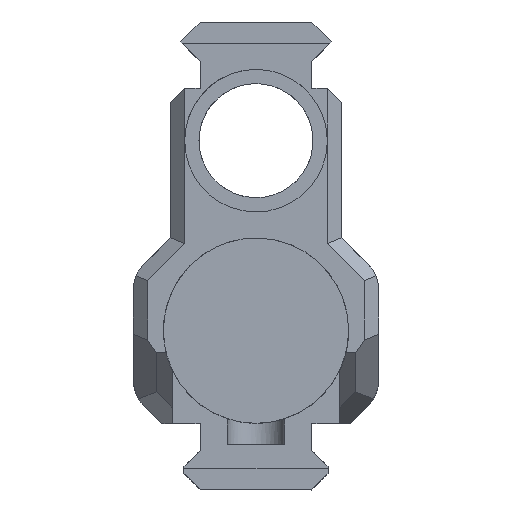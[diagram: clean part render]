
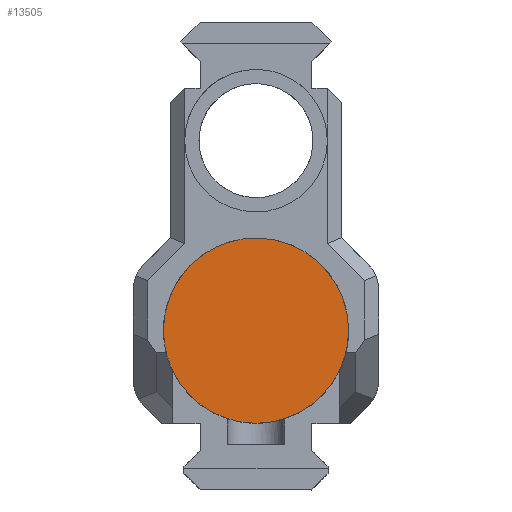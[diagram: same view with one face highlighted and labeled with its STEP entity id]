
A CAD part, left-side view. The second image highlights one B-rep face of the part: STEP entity #13505.
In plain terms, the highlighted planar face has unit normal (-1, 0, 0).
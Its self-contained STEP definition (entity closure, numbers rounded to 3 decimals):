
#181=PLANE('',#14097);
#2977=CIRCLE('',#13811,13.);
#4142=ORIENTED_EDGE('',*,*,#6053,.F.);
#6053=EDGE_CURVE('',#7529,#7529,#2977,.F.);
#7529=VERTEX_POINT('',#17061);
#8789=EDGE_LOOP('',(#4142));
#9334=FACE_BOUND('',#8789,.T.);
#13505=ADVANCED_FACE('',(#9334),#181,.T.);
#13811=AXIS2_PLACEMENT_3D('',#17060,#14475,#14476);
#14097=AXIS2_PLACEMENT_3D('',#18911,#15702,#15703);
#14475=DIRECTION('',(-1.,0.,0.));
#14476=DIRECTION('',(0.,-1.,0.));
#15702=DIRECTION('',(-1.,0.,0.));
#15703=DIRECTION('',(0.,1.,0.005));
#17060=CARTESIAN_POINT('',(255.063,1.991,22.354));
#17061=CARTESIAN_POINT('',(255.063,-11.009,22.354));
#18911=CARTESIAN_POINT('',(255.063,-7.135,10.524));
